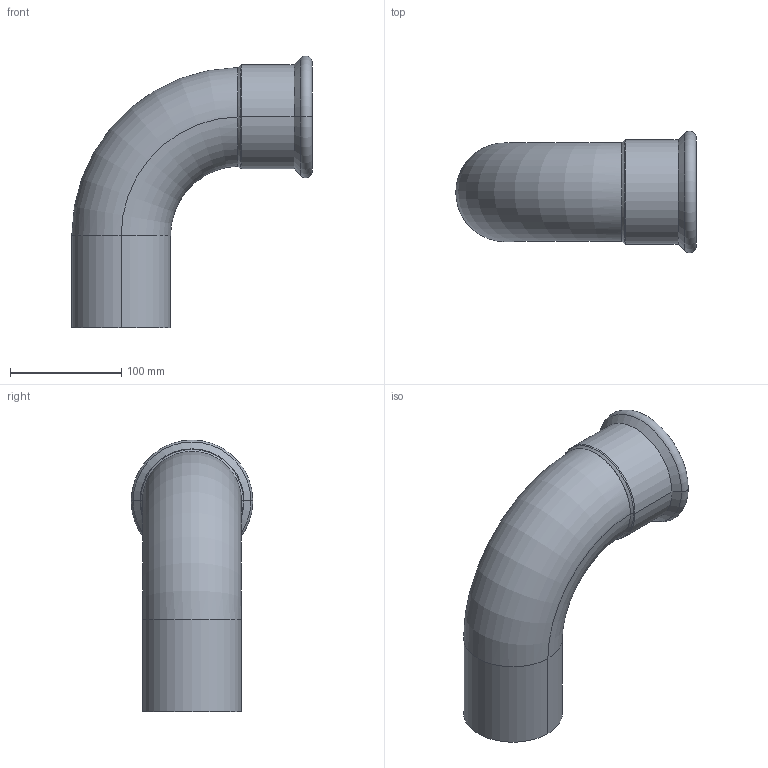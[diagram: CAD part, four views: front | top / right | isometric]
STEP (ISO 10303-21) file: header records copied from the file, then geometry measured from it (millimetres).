
FILE_DESCRIPTION(('CoCreate Modeling STEP Export'),'2;1');
FILE_NAME('C1411 88.9x88.9.stp','2014-11-11T16:37:52',(''),(''),'CoCreate Modeling STEP processor for AP214 (Solid Model)','CoCreate Modeling 17.00A 17-Jun-2010 (C) Parametric Technology GmbH','');
FILE_SCHEMA(('AUTOMOTIVE_DESIGN { 1 0 10303 214 1 1 1 1 }'));
Length unit declared in the file: millimetre
Products named in the file (2): C1411_89x89
Assembly tree (1 placements, depth 2):
  C1411_89x89
    C1411_89x89
Bounding box: 216.45 x 109.48 x 244.74 mm (x, y, z)
Volume: 204408.6 mm3; surface area: 180004 mm2
Topology: 1 solids, 1 shells, 31 faces, 68 edges, 41 vertices
Faces by surface type: cylinder 12, torus 8, plane 7, cone 4
Entity records: 2342 total; most frequent: CARTESIAN_POINT 1709, ORIENTED_EDGE 136, DIRECTION 106, EDGE_CURVE 68, AXIS2_PLACEMENT_3D 45, VERTEX_POINT 41, EDGE_LOOP 35, FACE_OUTER_BOUND 31
